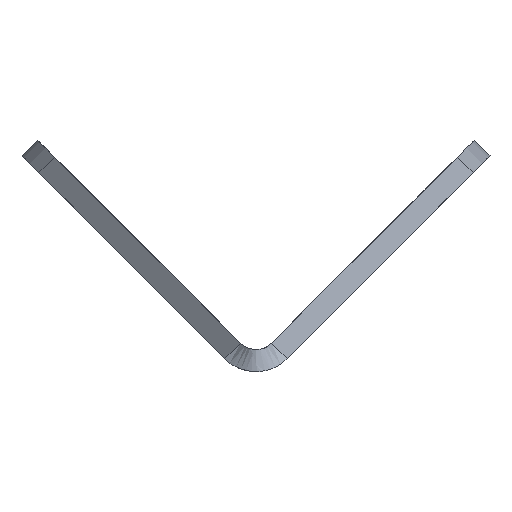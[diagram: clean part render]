
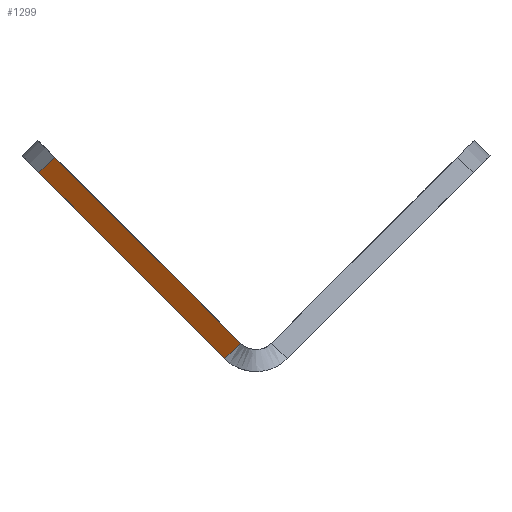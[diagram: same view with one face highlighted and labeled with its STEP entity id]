
A CAD part, front view. The second image highlights one B-rep face of the part: STEP entity #1299.
In plain terms, the highlighted planar face has unit normal (-0.661, -0.354, 0.661).
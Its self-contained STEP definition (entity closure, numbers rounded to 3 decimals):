
#14 = LINE ( 'NONE', #1200, #234 ) ;
#15 = VECTOR ( 'NONE', #534, 1000. ) ;
#99 = VECTOR ( 'NONE', #133, 1000. ) ;
#132 = LINE ( 'NONE', #533, #659 ) ;
#133 = DIRECTION ( 'NONE',  ( 0.251, -0.935, -0.251 ) ) ;
#234 = VECTOR ( 'NONE', #424, 1000. ) ;
#344 = LINE ( 'NONE', #1027, #99 ) ;
#351 = EDGE_CURVE ( 'NONE', #606, #1440, #132, .T. ) ;
#424 = DIRECTION ( 'NONE',  ( -0.707, 0., -0.707 ) ) ;
#449 = ORIENTED_EDGE ( 'NONE', *, *, #1582, .F. ) ;
#483 = CARTESIAN_POINT ( 'NONE',  ( -29.526, -243.088, 25.283 ) ) ;
#525 = ORIENTED_EDGE ( 'NONE', *, *, #351, .T. ) ;
#533 = CARTESIAN_POINT ( 'NONE',  ( -1.035, -349.418, -3.208 ) ) ;
#534 = DIRECTION ( 'NONE',  ( -0.707, 0., -0.707 ) ) ;
#547 = CARTESIAN_POINT ( 'NONE',  ( -27.404, -243.088, 27.404 ) ) ;
#583 = CARTESIAN_POINT ( 'NONE',  ( -2.121, -337.446, 2.121 ) ) ;
#606 = VERTEX_POINT ( 'NONE', #483 ) ;
#652 = PLANE ( 'NONE',  #1527 ) ;
#657 = LINE ( 'NONE', #1262, #15 ) ;
#659 = VECTOR ( 'NONE', #1403, 1000. ) ;
#823 = VERTEX_POINT ( 'NONE', #547 ) ;
#933 = FACE_OUTER_BOUND ( 'NONE', #1639, .T. ) ;
#980 = CARTESIAN_POINT ( 'NONE',  ( -4.243, -337.446, 0. ) ) ;
#998 = ORIENTED_EDGE ( 'NONE', *, *, #1589, .T. ) ;
#1027 = CARTESIAN_POINT ( 'NONE',  ( 1.087, -349.418, -1.087 ) ) ;
#1110 = VERTEX_POINT ( 'NONE', #583 ) ;
#1200 = CARTESIAN_POINT ( 'NONE',  ( -2.121, -337.446, 2.121 ) ) ;
#1262 = CARTESIAN_POINT ( 'NONE',  ( -27.404, -243.088, 27.404 ) ) ;
#1299 = ADVANCED_FACE ( 'NONE', ( #933 ), #652, .T. ) ;
#1352 = EDGE_CURVE ( 'NONE', #1110, #1440, #14, .T. ) ;
#1397 = ORIENTED_EDGE ( 'NONE', *, *, #1352, .F. ) ;
#1403 = DIRECTION ( 'NONE',  ( 0.251, -0.935, -0.251 ) ) ;
#1433 = DIRECTION ( 'NONE',  ( 0.251, -0.935, -0.251 ) ) ;
#1440 = VERTEX_POINT ( 'NONE', #980 ) ;
#1453 = DIRECTION ( 'NONE',  ( -0.661, -0.354, 0.661 ) ) ;
#1463 = CARTESIAN_POINT ( 'NONE',  ( 1.087, -349.418, -1.087 ) ) ;
#1527 = AXIS2_PLACEMENT_3D ( 'NONE', #1463, #1453, #1433 ) ;
#1582 = EDGE_CURVE ( 'NONE', #823, #1110, #344, .T. ) ;
#1589 = EDGE_CURVE ( 'NONE', #823, #606, #657, .T. ) ;
#1639 = EDGE_LOOP ( 'NONE', ( #449, #998, #525, #1397 ) ) ;
